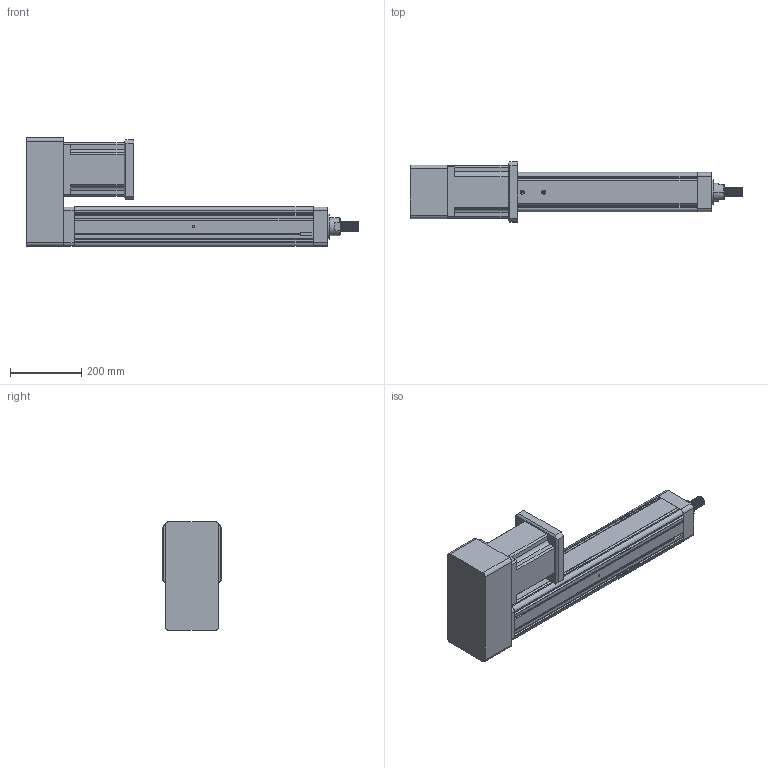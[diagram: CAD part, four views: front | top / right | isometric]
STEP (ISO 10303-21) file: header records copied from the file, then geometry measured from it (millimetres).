
FILE_DESCRIPTION (( 'STEP AP203' ), '1' );
FILE_NAME ('YRJ110-L500-H1K1.STEP', '2020-01-04T05:47:54', ( 'User' ), ( 'China' ), 'SwSTEP 2.0', 'SolidWorks 2016', '' );
FILE_SCHEMA (( 'CONFIG_CONTROL_DESIGN' ));
Length unit declared in the file: millimetre
Products named in the file (7): 142熬厒儂; YRJ110-L500-H1K1; 095-100俴最倰第; H1-110-1; H1-110-2; K1-110; 萇儂碟-110
Assembly tree (6 placements, depth 2):
  YRJ110-L500-H1K1
    095-100俴最倰第
    H1-110-1
    H1-110-2
    K1-110
    萇儂碟-110
    142熬厒儂
Bounding box: 931 x 168 x 305.5 mm (x, y, z)
Volume: 12585316.9 mm3; surface area: 1066997.5 mm2
Topology: 6 solids, 6 shells, 364 faces, 1005 edges, 644 vertices
Faces by surface type: plane 165, cylinder 160, cone 35, bspline 4
Entity records: 20176 total; most frequent: CARTESIAN_POINT 10347, ORIENTED_EDGE 1962, DIRECTION 1833, EDGE_CURVE 981, VERTEX_POINT 644, VECTOR 613, LINE 613, AXIS2_PLACEMENT_3D 610
